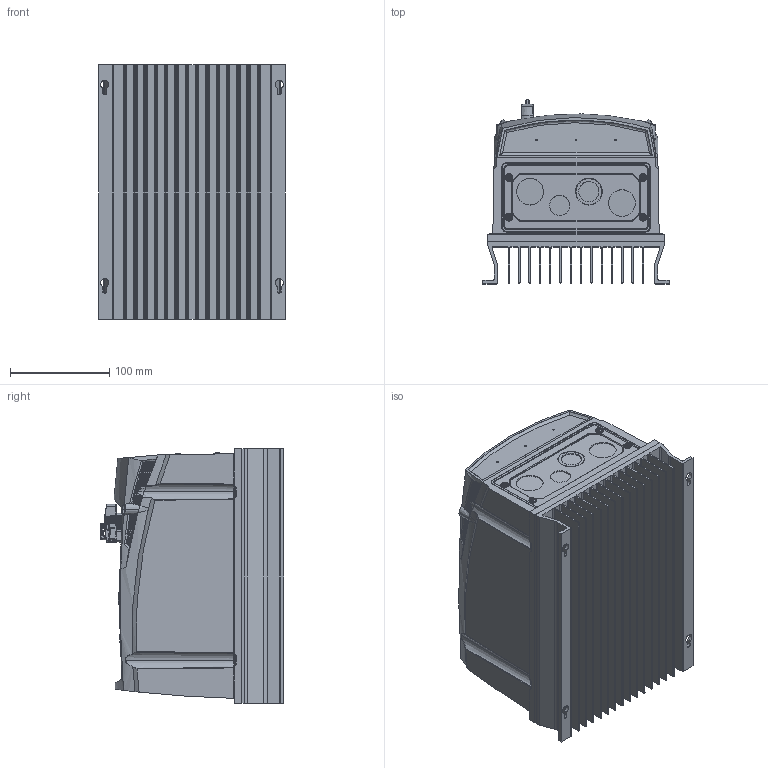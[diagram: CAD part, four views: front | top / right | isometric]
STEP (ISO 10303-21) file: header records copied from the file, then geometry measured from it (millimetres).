
FILE_DESCRIPTION (( 'STEP AP203' ), '1' );
FILE_NAME ('E3.IP66.Gen2.SIZE2.LED.Switched-Closed (ENVELOPE) (4-Hole).STEP', '2022-08-04T11:10:52', ( '' ), ( '' ), 'SwSTEP 2.0', 'SolidWorks 2022', '' );
FILE_SCHEMA (( 'CONFIG_CONTROL_DESIGN' ));
Products named in the file (1): E3.IP66.Gen2.SIZE2.LED.Switched-Closed (ENVELOPE) (4-Hole)
Bounding box: 188 x 185.4 x 257.09 mm (x, y, z)
Volume: 5277657.5 mm3; surface area: 514047.5 mm2
Topology: 1 solids, 7 shells, 3666 faces, 10405 edges, 6670 vertices
Faces by surface type: cylinder 818, bspline 758, sphere 730, plane 725, cone 437, torus 198
Entity records: 148604 total; most frequent: CARTESIAN_POINT 68065, ORIENTED_EDGE 18504, DIRECTION 14564, EDGE_CURVE 9252, AXIS2_PLACEMENT_3D 6127, VERTEX_POINT 5994, EDGE_LOOP 4016, ADVANCED_FACE 3632
